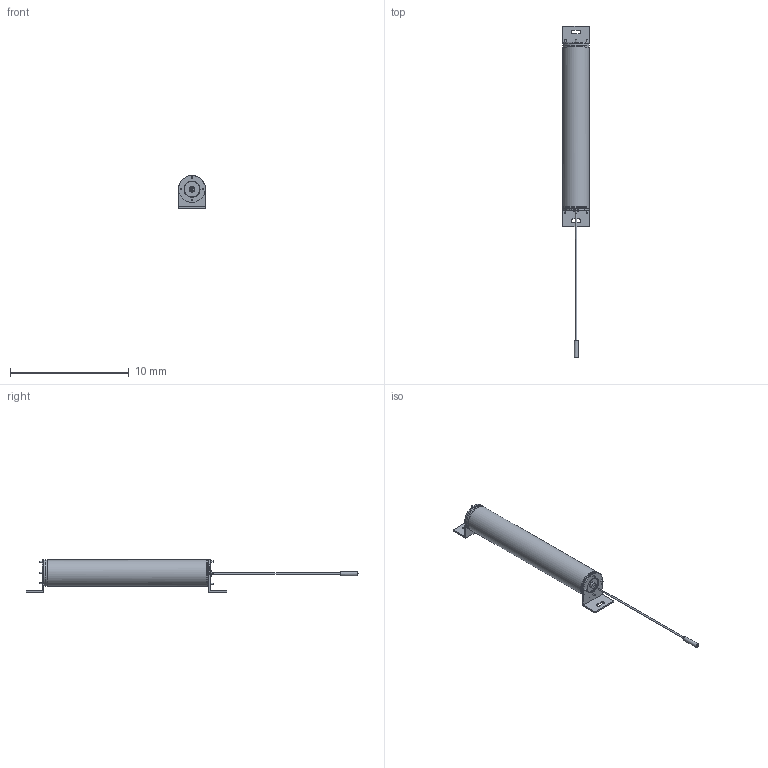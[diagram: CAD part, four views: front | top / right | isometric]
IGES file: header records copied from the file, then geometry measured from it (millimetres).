
Start section:  Autodesk DirectConnect version 7.0.27.0 ---- IGES version 5.3
Global section: file name: C:\ACADFILES\SS_PYLONS\CUSTOMER_FILES\SS-12-PYLON_3D_SMB_PT.iges; native system: Autodesk DirectConnect 7.0.27.0; preprocessor: 7.0.27.0; author: ENGINEERMAIN; organization: Unknown; date: 20150810.124219; units: millimetre
Bounding box: 2.26 x 28.01 x 2.75 mm (x, y, z)
Surface area: 461.3 mm2 (no closed solid volume)
Topology: 0 solids, 0 shells, 772 faces, 3944 edges, 3944 vertices
Faces by surface type: bspline 772
